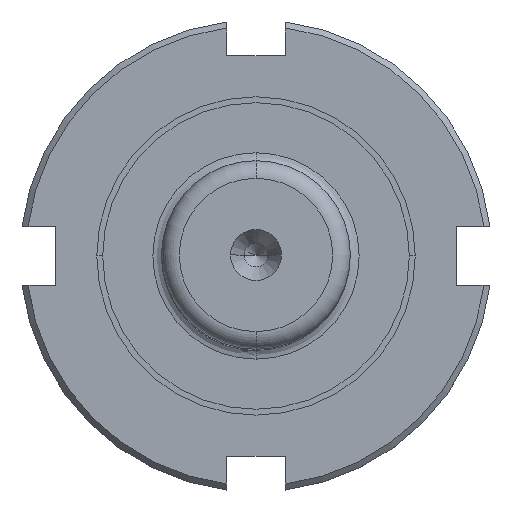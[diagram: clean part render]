
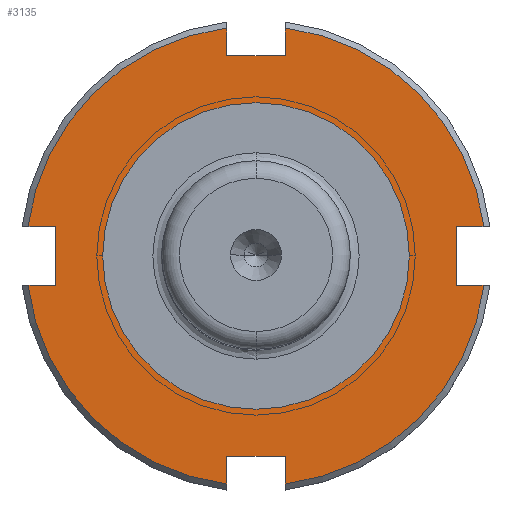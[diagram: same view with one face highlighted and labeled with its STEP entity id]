
A CAD part, top view. The second image highlights one B-rep face of the part: STEP entity #3135.
In plain terms, the highlighted planar face has unit normal (0, 0, 1).
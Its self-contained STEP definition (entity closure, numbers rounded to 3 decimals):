
#2227=CARTESIAN_POINT('',(0.0,13.0,22.0));
#2228=VERTEX_POINT('',#2227);
#2244=CARTESIAN_POINT('',(0.,-13.0,22.0));
#2245=VERTEX_POINT('',#2244);
#2252=CARTESIAN_POINT('',(0.0,0.0,22.0));
#2253=DIRECTION('',(0.0,0.0,-1.0));
#2254=DIRECTION('',(0.0,1.0,0.0));
#2255=AXIS2_PLACEMENT_3D('',#2252,#2253,#2254);
#2256=CIRCLE('',#2255,13.0);
#2257=EDGE_CURVE('',#2228,#2245,#2256,.T.);
#2292=CARTESIAN_POINT('',(-17.0,2.5,22.));
#2293=VERTEX_POINT('',#2292);
#2300=CARTESIAN_POINT('',(-19.339,2.5,22.));
#2301=VERTEX_POINT('',#2300);
#2302=CARTESIAN_POINT('',(-19.339,2.5,22.));
#2303=DIRECTION('',(1.0,0.0,0.0));
#2304=VECTOR('',#2303,2.339);
#2305=LINE('',#2302,#2304);
#2306=EDGE_CURVE('',#2301,#2293,#2305,.T.);
#2362=CARTESIAN_POINT('',(-19.339,-2.5,22.));
#2363=VERTEX_POINT('',#2362);
#2377=CARTESIAN_POINT('',(-17.0,-2.5,22.));
#2378=VERTEX_POINT('',#2377);
#2379=CARTESIAN_POINT('',(-17.0,-2.5,22.));
#2380=DIRECTION('',(-1.0,0.0,0.0));
#2381=VECTOR('',#2380,2.339);
#2382=LINE('',#2379,#2381);
#2383=EDGE_CURVE('',#2378,#2363,#2382,.T.);
#2414=CARTESIAN_POINT('',(-17.0,2.5,22.));
#2415=DIRECTION('',(0.0,-1.0,0.0));
#2416=VECTOR('',#2415,5.0);
#2417=LINE('',#2414,#2416);
#2418=EDGE_CURVE('',#2293,#2378,#2417,.T.);
#2454=CARTESIAN_POINT('',(-2.5,-17.0,22.0));
#2455=VERTEX_POINT('',#2454);
#2462=CARTESIAN_POINT('',(-2.5,-19.339,22.0));
#2463=VERTEX_POINT('',#2462);
#2464=CARTESIAN_POINT('',(-2.5,-19.339,22.0));
#2465=DIRECTION('',(0.0,1.0,0.0));
#2466=VECTOR('',#2465,2.339);
#2467=LINE('',#2464,#2466);
#2468=EDGE_CURVE('',#2463,#2455,#2467,.T.);
#2524=CARTESIAN_POINT('',(2.5,-19.339,22.0));
#2525=VERTEX_POINT('',#2524);
#2539=CARTESIAN_POINT('',(2.5,-17.0,22.0));
#2540=VERTEX_POINT('',#2539);
#2541=CARTESIAN_POINT('',(2.5,-17.0,22.0));
#2542=DIRECTION('',(0.0,-1.0,0.0));
#2543=VECTOR('',#2542,2.339);
#2544=LINE('',#2541,#2543);
#2545=EDGE_CURVE('',#2540,#2525,#2544,.T.);
#2576=CARTESIAN_POINT('',(-2.5,-17.0,22.0));
#2577=DIRECTION('',(1.0,0.0,0.0));
#2578=VECTOR('',#2577,5.0);
#2579=LINE('',#2576,#2578);
#2580=EDGE_CURVE('',#2455,#2540,#2579,.T.);
#2616=CARTESIAN_POINT('',(17.0,-2.5,22.));
#2617=VERTEX_POINT('',#2616);
#2624=CARTESIAN_POINT('',(19.339,-2.5,22.));
#2625=VERTEX_POINT('',#2624);
#2626=CARTESIAN_POINT('',(19.339,-2.5,22.));
#2627=DIRECTION('',(-1.0,0.0,0.0));
#2628=VECTOR('',#2627,2.339);
#2629=LINE('',#2626,#2628);
#2630=EDGE_CURVE('',#2625,#2617,#2629,.T.);
#2686=CARTESIAN_POINT('',(19.339,2.5,22.));
#2687=VERTEX_POINT('',#2686);
#2701=CARTESIAN_POINT('',(17.0,2.5,22.));
#2702=VERTEX_POINT('',#2701);
#2703=CARTESIAN_POINT('',(17.0,2.5,22.));
#2704=DIRECTION('',(1.0,0.0,0.0));
#2705=VECTOR('',#2704,2.339);
#2706=LINE('',#2703,#2705);
#2707=EDGE_CURVE('',#2702,#2687,#2706,.T.);
#2738=CARTESIAN_POINT('',(17.0,-2.5,22.));
#2739=DIRECTION('',(0.0,1.0,0.0));
#2740=VECTOR('',#2739,5.0);
#2741=LINE('',#2738,#2740);
#2742=EDGE_CURVE('',#2617,#2702,#2741,.T.);
#2778=CARTESIAN_POINT('',(2.5,17.0,22.0));
#2779=VERTEX_POINT('',#2778);
#2786=CARTESIAN_POINT('',(2.5,19.339,22.0));
#2787=VERTEX_POINT('',#2786);
#2788=CARTESIAN_POINT('',(2.5,19.339,22.0));
#2789=DIRECTION('',(0.0,-1.0,0.0));
#2790=VECTOR('',#2789,2.339);
#2791=LINE('',#2788,#2790);
#2792=EDGE_CURVE('',#2787,#2779,#2791,.T.);
#2848=CARTESIAN_POINT('',(-2.5,19.339,22.0));
#2849=VERTEX_POINT('',#2848);
#2863=CARTESIAN_POINT('',(-2.5,17.0,22.0));
#2864=VERTEX_POINT('',#2863);
#2865=CARTESIAN_POINT('',(-2.5,17.0,22.0));
#2866=DIRECTION('',(0.0,1.0,0.0));
#2867=VECTOR('',#2866,2.339);
#2868=LINE('',#2865,#2867);
#2869=EDGE_CURVE('',#2864,#2849,#2868,.T.);
#2900=CARTESIAN_POINT('',(2.5,17.0,22.0));
#2901=DIRECTION('',(-1.0,0.0,0.0));
#2902=VECTOR('',#2901,5.0);
#2903=LINE('',#2900,#2902);
#2904=EDGE_CURVE('',#2779,#2864,#2903,.T.);
#3078=CARTESIAN_POINT('',(0.0,16.25,22.0));
#3079=DIRECTION('',(0.0,0.0,1.0));
#3080=DIRECTION('',(1.0,0.0,0.0));
#3081=AXIS2_PLACEMENT_3D('',#3078,#3079,#3080);
#3082=PLANE('',#3081);
#3083=ORIENTED_EDGE('',*,*,#2306,.T.);
#3084=ORIENTED_EDGE('',*,*,#2418,.T.);
#3085=ORIENTED_EDGE('',*,*,#2383,.T.);
#3086=CARTESIAN_POINT('',(0.0,0.0,22.0));
#3087=DIRECTION('',(0.0,0.0,-1.0));
#3088=DIRECTION('',(0.0,1.0,0.0));
#3089=AXIS2_PLACEMENT_3D('',#3086,#3087,#3088);
#3090=CIRCLE('',#3089,19.5);
#3091=EDGE_CURVE('',#2463,#2363,#3090,.T.);
#3092=ORIENTED_EDGE('',*,*,#3091,.F.);
#3093=ORIENTED_EDGE('',*,*,#2468,.T.);
#3094=ORIENTED_EDGE('',*,*,#2580,.T.);
#3095=ORIENTED_EDGE('',*,*,#2545,.T.);
#3096=CARTESIAN_POINT('',(0.0,0.0,22.0));
#3097=DIRECTION('',(0.0,0.0,-1.0));
#3098=DIRECTION('',(0.0,1.0,0.0));
#3099=AXIS2_PLACEMENT_3D('',#3096,#3097,#3098);
#3100=CIRCLE('',#3099,19.5);
#3101=EDGE_CURVE('',#2625,#2525,#3100,.T.);
#3102=ORIENTED_EDGE('',*,*,#3101,.F.);
#3103=ORIENTED_EDGE('',*,*,#2630,.T.);
#3104=ORIENTED_EDGE('',*,*,#2742,.T.);
#3105=ORIENTED_EDGE('',*,*,#2707,.T.);
#3106=CARTESIAN_POINT('',(0.0,0.0,22.0));
#3107=DIRECTION('',(0.0,0.0,-1.0));
#3108=DIRECTION('',(0.0,1.0,0.0));
#3109=AXIS2_PLACEMENT_3D('',#3106,#3107,#3108);
#3110=CIRCLE('',#3109,19.5);
#3111=EDGE_CURVE('',#2787,#2687,#3110,.T.);
#3112=ORIENTED_EDGE('',*,*,#3111,.F.);
#3113=ORIENTED_EDGE('',*,*,#2792,.T.);
#3114=ORIENTED_EDGE('',*,*,#2904,.T.);
#3115=ORIENTED_EDGE('',*,*,#2869,.T.);
#3116=CARTESIAN_POINT('',(0.0,0.0,22.0));
#3117=DIRECTION('',(0.0,0.0,-1.0));
#3118=DIRECTION('',(0.0,1.0,0.0));
#3119=AXIS2_PLACEMENT_3D('',#3116,#3117,#3118);
#3120=CIRCLE('',#3119,19.5);
#3121=EDGE_CURVE('',#2301,#2849,#3120,.T.);
#3122=ORIENTED_EDGE('',*,*,#3121,.F.);
#3123=EDGE_LOOP('',(#3083,#3084,#3085,#3092,#3093,#3094,#3095,#3102,#3103,#3104,#3105,#3112,#3113,#3114,#3115,#3122));
#3124=FACE_OUTER_BOUND('',#3123,.T.);
#3125=ORIENTED_EDGE('',*,*,#2257,.T.);
#3126=CARTESIAN_POINT('',(0.0,0.0,22.0));
#3127=DIRECTION('',(0.0,0.0,-1.0));
#3128=DIRECTION('',(0.0,1.0,0.0));
#3129=AXIS2_PLACEMENT_3D('',#3126,#3127,#3128);
#3130=CIRCLE('',#3129,13.0);
#3131=EDGE_CURVE('',#2245,#2228,#3130,.T.);
#3132=ORIENTED_EDGE('',*,*,#3131,.T.);
#3133=EDGE_LOOP('',(#3125,#3132));
#3134=FACE_BOUND('',#3133,.T.);
#3135=ADVANCED_FACE('',(#3124,#3134),#3082,.T.);
